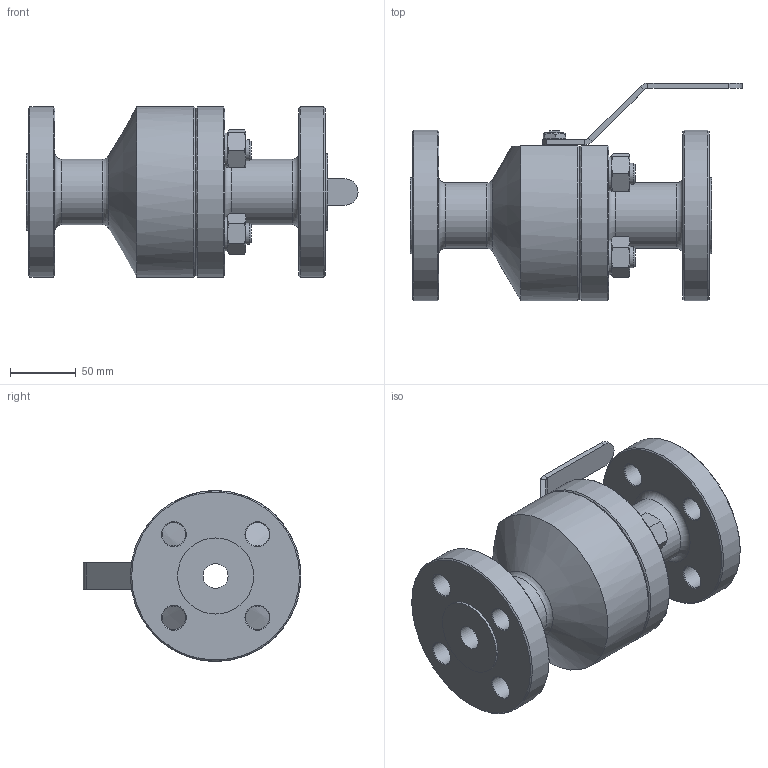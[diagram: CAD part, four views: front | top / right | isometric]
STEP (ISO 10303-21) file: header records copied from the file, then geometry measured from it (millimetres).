
FILE_DESCRIPTION((''),'2;1');
FILE_NAME('C:\Users\Bartek\Desktop\Nowy folder (2)\Nowy folder (22)\WK5b\WK5b DN20 PN100_Substitute_1.stp','2024-09-16T14:14:04',('Bartek'),(''),'Autodesk Inventor 2012','Autodesk Inventor 2012','');
FILE_SCHEMA(('AUTOMOTIVE_DESIGN { 1 0 10303 214 1 1 1 1 }'));
Length unit declared in the file: millimetre
Products named in the file (1): WK5b DN20 PN100_Substitute_1
Bounding box: 253 x 166 x 130 mm (x, y, z)
Volume: 1679772.9 mm3; surface area: 182665 mm2
Topology: 1 solids, 1 shells, 216 faces, 487 edges, 295 vertices
Faces by surface type: plane 86, cone 84, cylinder 42, torus 4
Full cylindrical faces by diameter (mm): 16 x4, 18 x8, 19 x1, 26 x4, 50 x2, 58 x3, 130 x2
Entity records: 5687 total; most frequent: CARTESIAN_POINT 1172, DIRECTION 900, ORIENTED_EDGE 838, EDGE_CURVE 419, AXIS2_PLACEMENT_3D 391, EDGE_LOOP 311, VERTEX_POINT 282, FACE_OUTER_BOUND 216
